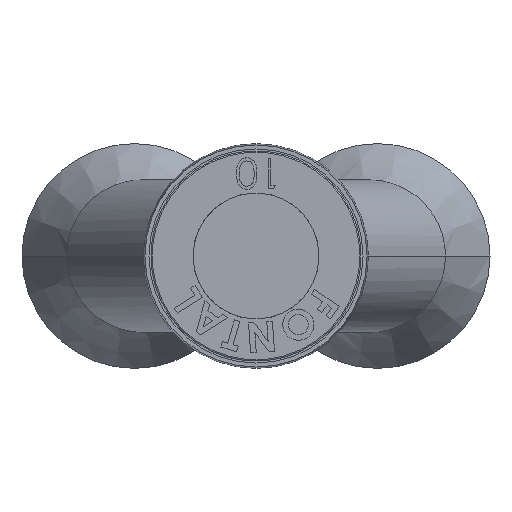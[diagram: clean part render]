
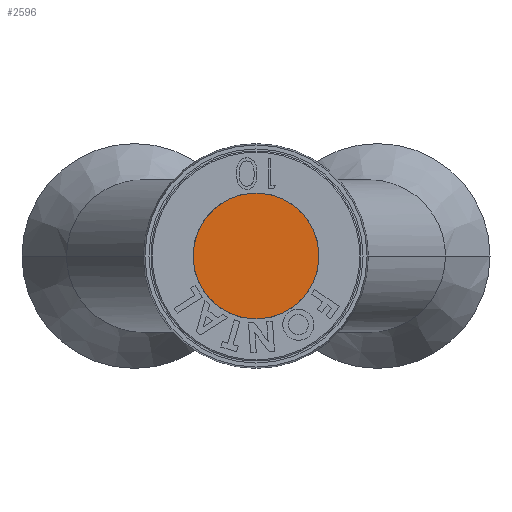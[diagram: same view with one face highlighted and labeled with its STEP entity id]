
A CAD part, front view. The second image highlights one B-rep face of the part: STEP entity #2596.
In plain terms, the highlighted planar face has unit normal (0, -1, 0).
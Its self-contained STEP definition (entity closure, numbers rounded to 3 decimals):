
#824 = CIRCLE ( 'NONE', #3269, 5. ) ;
#1018 = PLANE ( 'NONE',  #5768 ) ;
#1872 = CARTESIAN_POINT ( 'NONE',  ( -5., 5.8, 0. ) ) ;
#1971 = FACE_OUTER_BOUND ( 'NONE', #2157, .T. ) ;
#2157 = EDGE_LOOP ( 'NONE', ( #4040, #4829 ) ) ;
#2568 = DIRECTION ( 'NONE',  ( 0., -1., 0. ) ) ;
#2596 = ADVANCED_FACE ( 'NONE', ( #1971 ), #1018, .T. ) ;
#2618 = VERTEX_POINT ( 'NONE', #4728 ) ;
#3174 = EDGE_CURVE ( 'NONE', #5729, #2618, #824, .T. ) ;
#3269 = AXIS2_PLACEMENT_3D ( 'NONE', #5336, #5406, #6327 ) ;
#3763 = DIRECTION ( 'NONE',  ( 1., 0., 0. ) ) ;
#3787 = CARTESIAN_POINT ( 'NONE',  ( 0., 5.8, 0. ) ) ;
#4040 = ORIENTED_EDGE ( 'NONE', *, *, #4895, .T. ) ;
#4374 = DIRECTION ( 'NONE',  ( 0., -1., 0. ) ) ;
#4710 = DIRECTION ( 'NONE',  ( 1., 0., 0. ) ) ;
#4728 = CARTESIAN_POINT ( 'NONE',  ( 5., 5.8, 0. ) ) ;
#4829 = ORIENTED_EDGE ( 'NONE', *, *, #3174, .T. ) ;
#4895 = EDGE_CURVE ( 'NONE', #2618, #5729, #6646, .T. ) ;
#5336 = CARTESIAN_POINT ( 'NONE',  ( 0., 5.8, 0. ) ) ;
#5352 = AXIS2_PLACEMENT_3D ( 'NONE', #3787, #4374, #3763 ) ;
#5406 = DIRECTION ( 'NONE',  ( 0., -1., 0. ) ) ;
#5724 = CARTESIAN_POINT ( 'NONE',  ( 0., 5.8, 0. ) ) ;
#5729 = VERTEX_POINT ( 'NONE', #1872 ) ;
#5768 = AXIS2_PLACEMENT_3D ( 'NONE', #5724, #2568, #4710 ) ;
#6327 = DIRECTION ( 'NONE',  ( 1., 0., 0. ) ) ;
#6646 = CIRCLE ( 'NONE', #5352, 5. ) ;
